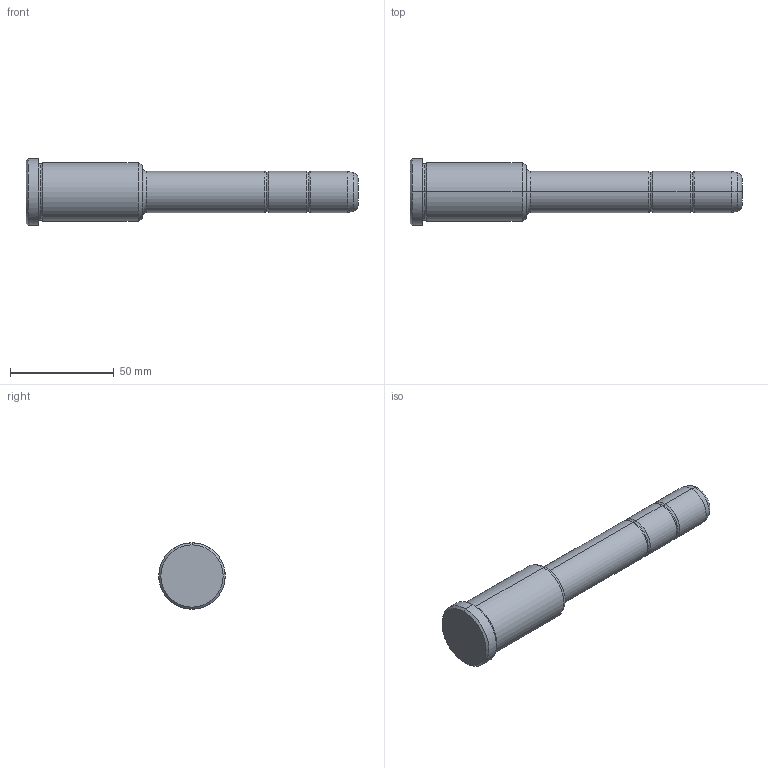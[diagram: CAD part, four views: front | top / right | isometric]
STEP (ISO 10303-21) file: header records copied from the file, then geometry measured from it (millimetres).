
FILE_DESCRIPTION(('CATIA V5 STEP Exchange'),'2;1');
FILE_NAME('C:\Users\Utente\Desktop\IO LAVORO\3D X SITO CF\X SITO\PLASTICA\351\351-20X56X160.stp','2021-08-27T12:47:25+00:00',('none'),('none'),'CATIA Version 5 Release 20 GA (IN-10)','CATIA V5 STEP AP203','none');
FILE_SCHEMA(('CONFIG_CONTROL_DESIGN'));
Length unit declared in the file: millimetre
Products named in the file (1): 351-20X56X160
Bounding box: 160 x 32 x 32 mm (x, y, z)
Volume: 67793.4 mm3; surface area: 12878.5 mm2
Topology: 1 solids, 1 shells, 36 faces, 102 edges, 70 vertices
Faces by surface type: torus 16, cylinder 10, cone 6, plane 4
Entity records: 1292 total; most frequent: CARTESIAN_POINT 321, ORIENTED_EDGE 204, DIRECTION 166, AXIS2_PLACEMENT_3D 115, EDGE_CURVE 102, CIRCLE 78, VERTEX_POINT 70, EDGE_LOOP 38
